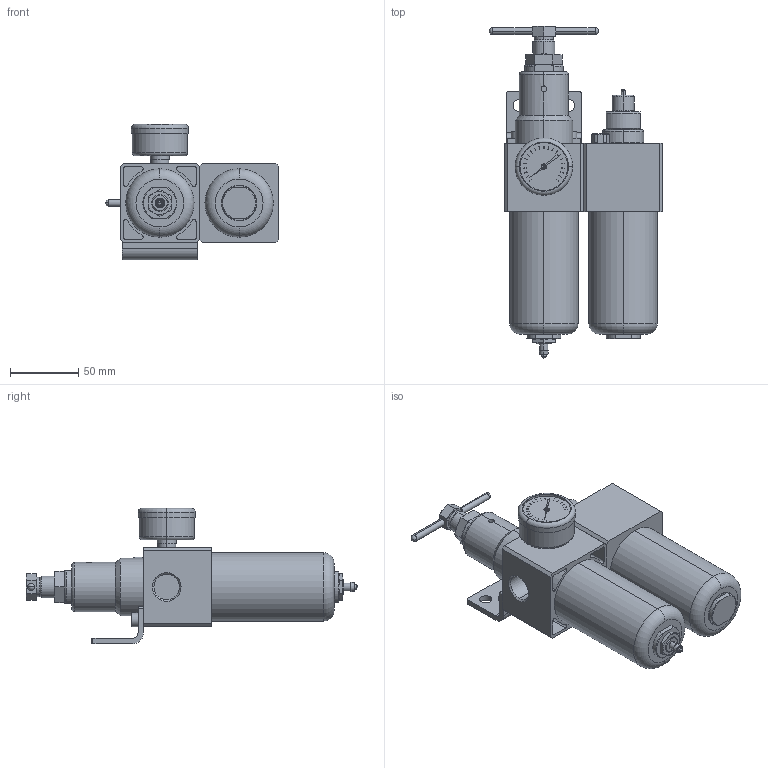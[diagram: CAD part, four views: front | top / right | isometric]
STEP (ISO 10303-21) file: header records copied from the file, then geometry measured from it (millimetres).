
FILE_DESCRIPTION (( 'STEP AP203' ), '1' );
FILE_NAME ('FRL400S-N04-D.STEP', '2022-04-19T10:19:53', ( '' ), ( '' ), 'SwSTEP 2.0', 'SolidWorks 2019', '' );
FILE_SCHEMA (( 'CONFIG_CONTROL_DESIGN' ));
Length unit declared in the file: millimetre
Products named in the file (1): FRL400S-N04-D
Bounding box: 127 x 243 x 99.1 mm (x, y, z)
Volume: 788884 mm3; surface area: 102990.6 mm2
Topology: 6 solids, 6 shells, 540 faces, 1252 edges, 796 vertices
Faces by surface type: plane 213, cylinder 191, cone 96, torus 34, sphere 6
Entity records: 16559 total; most frequent: CARTESIAN_POINT 3900, DIRECTION 2772, ORIENTED_EDGE 2496, EDGE_CURVE 1248, AXIS2_PLACEMENT_3D 1104, VERTEX_POINT 796, EDGE_LOOP 630, LINE 564
